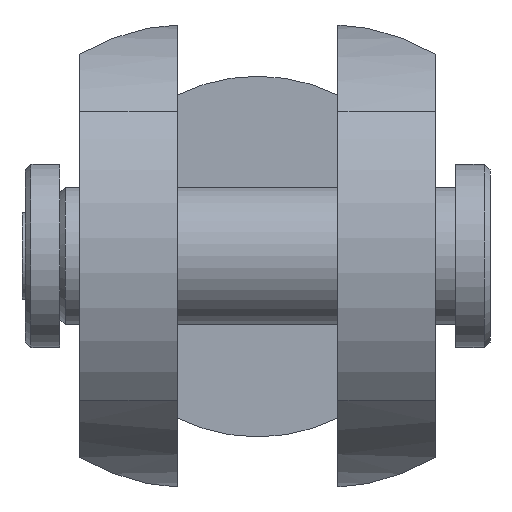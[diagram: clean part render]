
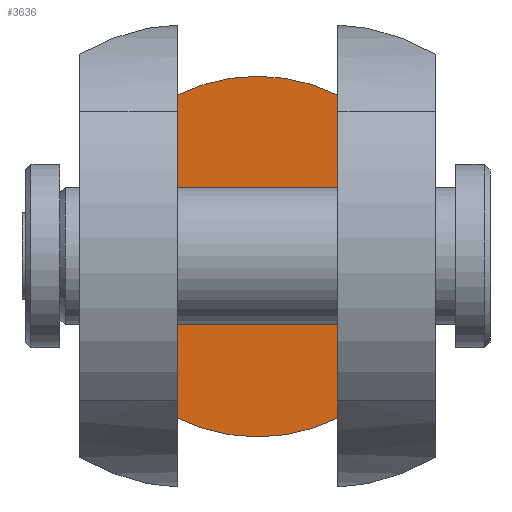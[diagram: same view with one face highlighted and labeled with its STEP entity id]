
A CAD part, top view. The second image highlights one B-rep face of the part: STEP entity #3636.
In plain terms, the highlighted planar face has unit normal (0, 0, 1).
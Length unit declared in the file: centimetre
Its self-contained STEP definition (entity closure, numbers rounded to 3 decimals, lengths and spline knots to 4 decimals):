
#172=PLANE('',#3841);
#585=LINE('',#5982,#941);
#586=LINE('',#5984,#942);
#941=VECTOR('',#4575,2.8137);
#942=VECTOR('',#4578,2.8137);
#1181=FACE_OUTER_BOUND('',#1405,.T.);
#1405=EDGE_LOOP('',(#3158,#3159,#3160,#3161));
#1472=CIRCLE('',#3695,1.5714);
#1473=CIRCLE('',#3696,1.5714);
#1536=VERTEX_POINT('',#4866);
#1537=VERTEX_POINT('',#4870);
#1542=VERTEX_POINT('',#4898);
#1543=VERTEX_POINT('',#4902);
#1867=EDGE_CURVE('',#1536,#1537,#1472,.T.);
#1873=EDGE_CURVE('',#1542,#1543,#1473,.T.);
#2268=EDGE_CURVE('',#1543,#1536,#585,.T.);
#2269=EDGE_CURVE('',#1542,#1537,#586,.T.);
#3158=ORIENTED_EDGE('',*,*,#1873,.F.);
#3159=ORIENTED_EDGE('',*,*,#2269,.T.);
#3160=ORIENTED_EDGE('',*,*,#1867,.F.);
#3161=ORIENTED_EDGE('',*,*,#2268,.F.);
#3636=ADVANCED_FACE('',(#1181),#172,.F.);
#3695=AXIS2_PLACEMENT_3D('',#4871,#3949,#3950);
#3696=AXIS2_PLACEMENT_3D('',#4903,#3951,#3952);
#3841=AXIS2_PLACEMENT_3D('',#5983,#4576,#4577);
#3949=DIRECTION('center_axis',(0.,0.,
-1.));
#3950=DIRECTION('ref_axis',(0.,-1.,0.));
#3951=DIRECTION('center_axis',(0.,0.,
-1.));
#3952=DIRECTION('ref_axis',(0.,-1.,0.));
#4575=DIRECTION('',(0.,1.,0.));
#4576=DIRECTION('center_axis',(0.,0.,
-1.));
#4577=DIRECTION('ref_axis',(-1.,0.,0.));
#4578=DIRECTION('',(0.,1.,0.));
#4866=CARTESIAN_POINT('',(-0.7,1.4069,-2.75));
#4870=CARTESIAN_POINT('',(0.7,1.4069,-2.75));
#4871=CARTESIAN_POINT('Origin',(0.,0.,
-2.75));
#4898=CARTESIAN_POINT('',(0.7,-1.4069,-2.75));
#4902=CARTESIAN_POINT('',(-0.7,-1.4069,-2.75));
#4903=CARTESIAN_POINT('Origin',(0.,0.,
-2.75));
#5982=CARTESIAN_POINT('',(-0.7,0.,-2.75));
#5983=CARTESIAN_POINT('Origin',(0.7,0.,
-2.75));
#5984=CARTESIAN_POINT('',(0.7,0.,-2.75));
